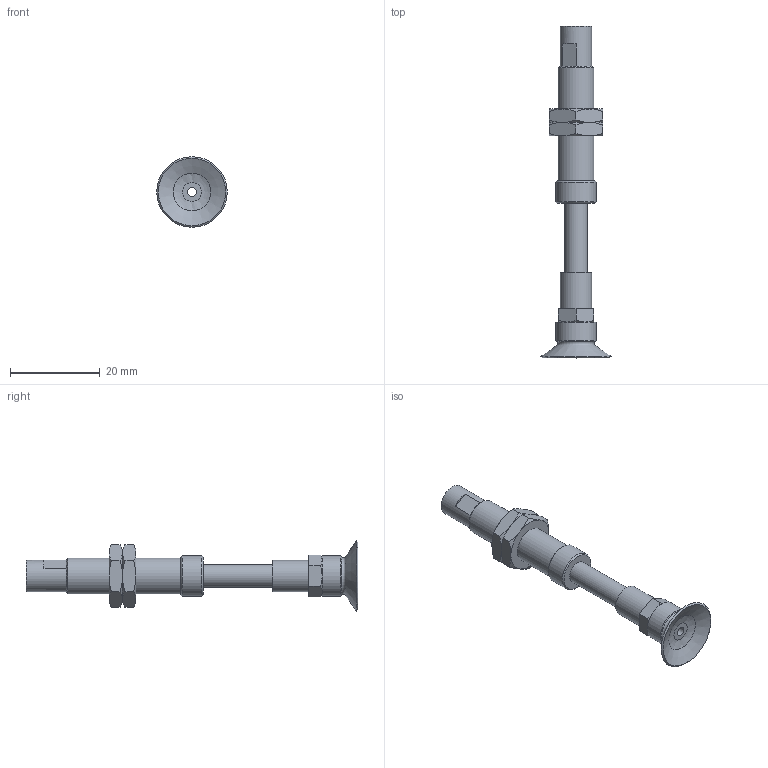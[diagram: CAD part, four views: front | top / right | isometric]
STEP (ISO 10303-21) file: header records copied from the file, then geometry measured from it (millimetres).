
FILE_DESCRIPTION(('STEP AP203'),'1');
FILE_NAME('-SPE.stp','2025-04-11T08:46:20',(' '),(' '),'Spatial InterOp 3D',' ',' ');
FILE_SCHEMA(('CONFIG_CONTROL_DESIGN'));
Length unit declared in the file: millimetre
Products named in the file (9): BNABPFTS-15A-15-※-SPE; NUT; BODY; STOPPER; ZIG; TN-PS-10-M5; Setting screws-TN-PS-10-M5; BPFG-15A-※
Assembly tree (8 placements, depth 3):
  BNABPFTS-15A-15-※-SPE
    NUT
    NUT
    BODY
    STOPPER
    ZIG
    TN-PS-10-M5
      Setting screws-TN-PS-10-M5
    BPFG-15A-※
Bounding box: 15.7 x 74 x 15.7 mm (x, y, z)
Volume: 3209.4 mm3; surface area: 4869 mm2
Topology: 7 solids, 7 shells, 144 faces, 299 edges, 182 vertices
Faces by surface type: plane 61, cone 48, cylinder 26, torus 8, bspline 1
Full cylindrical faces by diameter (mm): 2 x3, 3.4 x1, 3.5 x1, 3.9 x1, 4 x5, 4.2 x2, 5 x3, 5.2 x1, 6 x2, 7 x2, 7.25 x2, 8 x1, 9 x2
Entity records: 3955 total; most frequent: CARTESIAN_POINT 763, DIRECTION 592, ORIENTED_EDGE 462, AXIS2_PLACEMENT_3D 268, EDGE_CURVE 231, EDGE_LOOP 224, FACE_OUTER_BOUND 179, VERTEX_POINT 167
